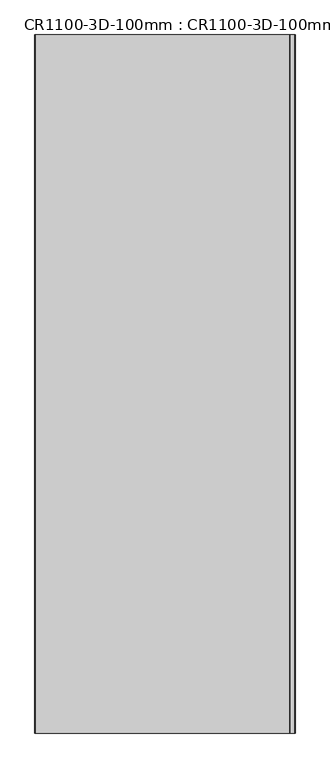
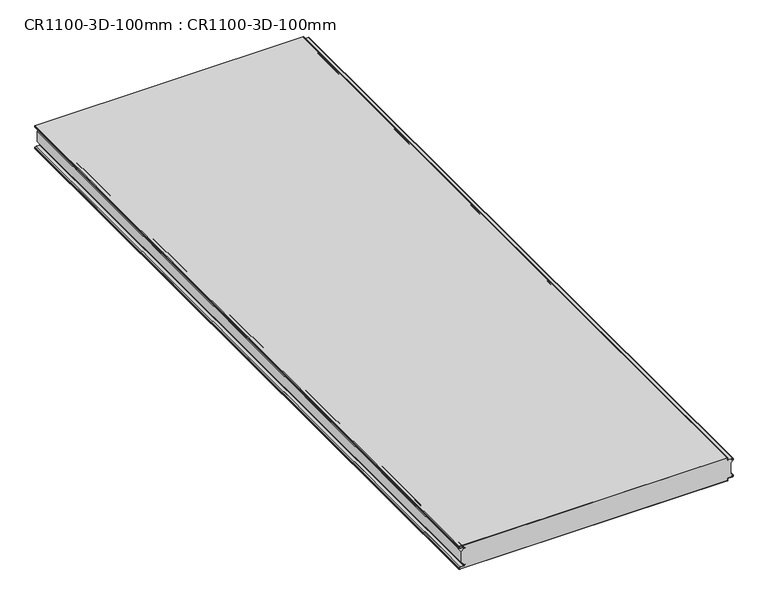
"""IFC4 building model written with IfcOpenShell, lengths in millimetres: proxy geometry, CR1100-3D-100mm : CR1100-3D-100mm."""

from ifc_helpers import new_model, si_unit, point, frame, frame_2d, origin, place, context, project, spatial, polyline, circle_curve, trimmed, segment, composite_curve, outline, extrude, source, transform, mapped, element, save
from ifc_brep_helpers import plane_surface, cylinder_surface, revolved_surface, advanced_brep


def cr1100_3d_100mm_cr1100_3d_100mm_3775a894(model_context):
    return source(origin(), model_context, "Body", "SolidModel", [
        advanced_brep(
        [(1096.2027435, -3000.0, 98.9992305), (1.7649196, -3000.0, 98.9992305), (1.0, -3000.0, 98.2), (1.0, -3000.0, 94.04), (1.4, -3000.0, 93.3471797), (5.4641016, -3000.0, 91.0007695), (18.8, -3000.0, 91.0007695), (20.9972562, -3000.0, 88.9106119), (20.9972562, -3000.0, 86.8007695), (21.8, -3000.0, 86.0007695), (26.0, -3000.0, 86.0007695), (26.0, -3000.0, 85.0007695), (21.8, -3000.0, 85.0007695), (20.0, -3000.0, 86.8007695), (19.9972562, -3000.0, 82.5950665), (9.9962253, -3000.0, 72.6762843), (9.9962253, -3000.0, 27.6050984), (20.0, -3000.0, 17.5985798), (20.0, -3000.0, 13.1992305), (21.8, -3000.0, 14.9992305), (26.0, -3000.0, 14.9992305), (26.0, -3000.0, 13.9992305), (21.8, -3000.0, 13.9992305), (21.0, -3000.0, 13.1992305), (21.0, -3000.0, 12.2992305), (21.0, -3000.0, 11.1992305), (18.8, -3000.0, 8.9992305), (5.4641016, -3000.0, 8.9992305), (1.4, -3000.0, 6.6528203), (1.0, -3000.0, 5.96), (1.0, -3000.0, 1.8), (1.8, -3000.0, 1.0), (1096.2027435, -3000.0, 0.9992305), (1097.0027435, -3000.0, 1.7992305), (1097.0027435, -3000.0, 9.2992305), (1099.2027435, -3000.0, 11.4992305), (1118.2027435, -3000.0, 11.4992305), (1119.0027435, -3000.0, 12.2992305), (1119.0027435, -3000.0, 13.1992305), (1118.2027435, -3000.0, 13.9992305), (1114.0027435, -3000.0, 13.9992305), (1114.0027435, -3000.0, 14.9992305), (1118.2027435, -3000.0, 14.9992305), (1120.0027435, -3000.0, 13.1992305), (1120.0027435, -3000.0, 17.5985798), (1109.9989687, -3000.0, 27.6050984), (1109.9989687, -3000.0, 72.6762843), (1119.9999996, -3000.0, 82.5950665), (1119.9999996, -3000.0, 86.6998704), (1118.202743, -3000.0, 84.9992305), (1114.0027435, -3000.0, 84.9992305), (1114.0027435, -3000.0, 85.9992305), (1118.202743, -3000.0, 85.9992305), (1119.0027435, -3000.0, 86.8002569), (1119.0027435, -3000.0, 87.6992305), (1118.2027435, -3000.0, 88.4992305), (1099.2027435, -3000.0, 88.4992305), (1097.0027435, -3000.0, 90.6992305), (1097.0027435, -3000.0, 98.1992305), (1096.2027435, 0.0, 98.9992305), (1097.0027435, 0.0, 98.1992305), (1097.0027435, 0.0, 90.6992305), (1099.2027435, 0.0, 88.4992305), (1118.2027435, 0.0, 88.4992305), (1119.0027435, 0.0, 87.6992305), (1119.0027435, 0.0, 86.8002569), (1118.202743, 0.0, 85.9992305), (1114.0027435, 0.0, 85.9992305), (1114.0027435, 0.0, 84.9992305), (1118.202743, 0.0, 84.9992305), (1119.9999996, 0.0, 86.6998704), (1119.9999996, 0.0, 82.5950665), (1109.9989687, 0.0, 72.6762843), (1109.9989687, 0.0, 27.6050984), (1120.0027435, 0.0, 17.5985798), (1120.0027435, 0.0, 13.1992305), (1118.2027435, 0.0, 14.9992305), (1114.0027435, 0.0, 14.9992305), (1114.0027435, 0.0, 13.9992305), (1118.2027435, 0.0, 13.9992305), (1119.0027435, 0.0, 13.1992305), (1119.0027435, 0.0, 12.2992305), (1118.2027435, 0.0, 11.4992305), (1099.2027435, 0.0, 11.4992305), (1097.0027435, 0.0, 9.2992305), (1097.0027435, 0.0, 1.7992305), (1096.2027435, 0.0, 0.9992305), (1.8, 0.0, 0.9992305), (1.0, 0.0, 1.8), (1.0, 0.0, 5.96), (1.4, 0.0, 6.6528203), (5.4641016, 0.0, 8.9992305), (18.8, 0.0, 8.9992305), (21.0, 0.0, 11.1992305), (21.0, 0.0, 12.2992305), (21.0, 0.0, 13.1992305), (21.8, 0.0, 13.9992305), (26.0, 0.0, 13.9992305), (26.0, 0.0, 14.9992305), (21.8, 0.0, 14.9992305), (20.0, 0.0, 13.1992305), (20.0, 0.0, 17.5985798), (9.9962253, 0.0, 27.6050984), (9.9962253, 0.0, 72.6762843), (19.9972562, 0.0, 82.5950665), (19.9972562, 0.0, 86.8007695), (21.8, 0.0, 85.0007695), (26.0, 0.0, 85.0007695), (26.0, 0.0, 86.0007695), (21.8, 0.0, 86.0007695), (21.0, 0.0, 86.8007695), (20.9972562, 0.0, 88.9106119), (18.8, 0.0, 91.0007695), (5.4641016, 0.0, 91.0007695), (1.4, 0.0, 93.3471797), (1.0, 0.0, 94.04), (1.0, 0.0, 98.2), (1.7649196, 0.0, 98.9992305)],
        [
            (0, 1),
            (1, 2, circle_curve(frame((1.8, -3000.0, 98.2), z_axis=(0.0, -1.0, 0.0), x_axis=(1.0, 0.0, 0.0)), 0.8)),
            (2, 3),
            (3, 4, circle_curve(frame((1.8, -3000.0, 94.04), z_axis=(0.0, -1.0, 0.0), x_axis=(1.0, 0.0, 0.0)), 0.8)),
            (4, 5),
            (5, 6),
            (6, 7, circle_curve(frame((18.8, -3000.0, 88.8007695), z_axis=(0.0, 1.0, 0.0), x_axis=(1.0, 0.0, 0.0)), 2.2)),
            (7, 8),
            (8, 9, circle_curve(frame((21.8, -3000.0, 86.8007695), z_axis=(0.0, -1.0, 0.0), x_axis=(1.0, 0.0, 0.0)), 0.8)),
            (9, 10),
            (10, 11),
            (11, 12),
            (12, 13, circle_curve(frame((21.8, -3000.0, 86.8007695), z_axis=(0.0, 1.0, 0.0), x_axis=(1.0, 0.0, 0.0)), 1.8)),
            (13, 14),
            (14, 15),
            (15, 16),
            (16, 17),
            (17, 18),
            (18, 19, circle_curve(frame((21.8, -3000.0, 13.1992305), z_axis=(0.0, 1.0, 0.0), x_axis=(1.0, 0.0, 0.0)), 1.8)),
            (19, 20),
            (20, 21),
            (21, 22),
            (22, 23, circle_curve(frame((21.8, -3000.0, 13.1992305), z_axis=(0.0, -1.0, 0.0), x_axis=(1.0, 0.0, 0.0)), 0.8)),
            (23, 24),
            (24, 25),
            (25, 26, circle_curve(frame((18.8, -3000.0, 11.1992305), z_axis=(0.0, 1.0, 0.0), x_axis=(1.0, 0.0, 0.0)), 2.2)),
            (26, 27),
            (27, 28),
            (28, 29, circle_curve(frame((1.8, -3000.0, 5.96), z_axis=(0.0, -1.0, 0.0), x_axis=(1.0, 0.0, 0.0)), 0.8)),
            (29, 30),
            (30, 31, circle_curve(frame((1.8, -3000.0, 1.8), z_axis=(0.0, -1.0, 0.0), x_axis=(1.0, 0.0, 0.0)), 0.8)),
            (31, 32),
            (32, 33, circle_curve(frame((1096.2027435, -3000.0, 1.7992305), z_axis=(0.0, -1.0, 0.0), x_axis=(1.0, 0.0, -1.015187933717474e-12)), 0.8)),
            (33, 34),
            (34, 35, circle_curve(frame((1099.2027435, -3000.0, 9.2992305), z_axis=(0.0, 1.0, 0.0), x_axis=(1.0, 0.0, 0.0)), 2.2)),
            (35, 36),
            (36, 37, circle_curve(frame((1118.2027435, -3000.0, 12.2992305), z_axis=(0.0, -1.0, 0.0), x_axis=(1.0, 0.0, 0.0)), 0.8)),
            (37, 38),
            (38, 39, circle_curve(frame((1118.2027435, -3000.0, 13.1992305), z_axis=(0.0, -1.0, 0.0), x_axis=(1.0, 0.0, 0.0)), 0.8)),
            (39, 40),
            (40, 41),
            (41, 42),
            (42, 43, circle_curve(frame((1118.2027435, -3000.0, 13.1992305), z_axis=(0.0, 1.0, 0.0), x_axis=(1.0, 0.0, 0.0)), 1.8)),
            (43, 44),
            (44, 45),
            (45, 46),
            (46, 47),
            (47, 48),
            (48, 49, circle_curve(frame((1118.202743, -3000.0, 86.7992316), z_axis=(0.0, 1.0, 0.0), x_axis=(1.0, 0.0, 0.0)), 1.8000011)),
            (49, 50),
            (50, 51),
            (51, 52),
            (52, 53, circle_curve(frame((1118.202743, -3000.0, 86.7992316), z_axis=(0.0, -1.0, 0.0), x_axis=(1.0, 0.0, 0.0)), 0.8000011)),
            (53, 54),
            (54, 55, circle_curve(frame((1118.2027435, -3000.0, 87.6992305), z_axis=(0.0, -1.0, 0.0), x_axis=(1.0, 0.0, 0.0)), 0.8)),
            (55, 56),
            (56, 57, circle_curve(frame((1099.2027435, -3000.0, 90.6992305), z_axis=(0.0, 1.0, 0.0), x_axis=(1.0, 0.0, 0.0)), 2.2)),
            (57, 58),
            (58, 0, circle_curve(frame((1096.2027435, -3000.0, 98.1992305), z_axis=(0.0, -1.0, 0.0), x_axis=(1.0, 0.0, 0.0)), 0.8)),
            (59, 60, circle_curve(frame((1096.2027435, 0.0, 98.1992305), z_axis=(0.0, 1.0, 0.0), x_axis=(1.0, 0.0, 0.0)), 0.8)),
            (60, 61),
            (61, 62, circle_curve(frame((1099.2027435, 0.0, 90.6992305), z_axis=(0.0, -1.0, 0.0), x_axis=(1.0, 0.0, 0.0)), 2.2)),
            (62, 63),
            (63, 64, circle_curve(frame((1118.2027435, 0.0, 87.6992305), z_axis=(0.0, 1.0, 0.0), x_axis=(1.0, 0.0, 0.0)), 0.8)),
            (64, 65),
            (65, 66, circle_curve(frame((1118.202743, 0.0, 86.7992316), z_axis=(0.0, 1.0, 0.0), x_axis=(1.0, 0.0, 0.0)), 0.8000011)),
            (66, 67),
            (67, 68),
            (68, 69),
            (69, 70, circle_curve(frame((1118.202743, 0.0, 86.7992316), z_axis=(0.0, -1.0, 0.0), x_axis=(1.0, 0.0, 0.0)), 1.8000011)),
            (70, 71),
            (71, 72),
            (72, 73),
            (73, 74),
            (74, 75),
            (75, 76, circle_curve(frame((1118.2027435, 0.0, 13.1992305), z_axis=(0.0, -1.0, 0.0), x_axis=(1.0, 0.0, 0.0)), 1.8)),
            (76, 77),
            (77, 78),
            (78, 79),
            (79, 80, circle_curve(frame((1118.2027435, 0.0, 13.1992305), z_axis=(0.0, 1.0, 0.0), x_axis=(1.0, 0.0, 0.0)), 0.8)),
            (80, 81),
            (81, 82, circle_curve(frame((1118.2027435, 0.0, 12.2992305), z_axis=(0.0, 1.0, 0.0), x_axis=(1.0, 0.0, 0.0)), 0.8)),
            (82, 83),
            (83, 84, circle_curve(frame((1099.2027435, 0.0, 9.2992305), z_axis=(0.0, -1.0, 0.0), x_axis=(1.0, 0.0, 0.0)), 2.2)),
            (84, 85),
            (85, 86, circle_curve(frame((1096.2027435, 0.0, 1.7992305), z_axis=(0.0, 1.0, 0.0), x_axis=(1.0, 0.0, -1.015187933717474e-12)), 0.8)),
            (86, 87),
            (87, 88, circle_curve(frame((1.8, 0.0, 1.8), z_axis=(0.0, 1.0, 0.0), x_axis=(1.0, 0.0, 0.0)), 0.8)),
            (88, 89),
            (89, 90, circle_curve(frame((1.8, 0.0, 5.96), z_axis=(0.0, 1.0, 0.0), x_axis=(1.0, 0.0, 0.0)), 0.8)),
            (90, 91),
            (91, 92),
            (92, 93, circle_curve(frame((18.8, 0.0, 11.1992305), z_axis=(0.0, -1.0, 0.0), x_axis=(1.0, 0.0, 0.0)), 2.2)),
            (93, 94),
            (94, 95),
            (95, 96, circle_curve(frame((21.8, 0.0, 13.1992305), z_axis=(0.0, 1.0, 0.0), x_axis=(1.0, 0.0, 0.0)), 0.8)),
            (96, 97),
            (97, 98),
            (98, 99),
            (99, 100, circle_curve(frame((21.8, 0.0, 13.1992305), z_axis=(0.0, -1.0, 0.0), x_axis=(1.0, 0.0, 0.0)), 1.8)),
            (100, 101),
            (101, 102),
            (102, 103),
            (103, 104),
            (104, 105),
            (105, 106, circle_curve(frame((21.8, 0.0, 86.8007695), z_axis=(0.0, -1.0, 0.0), x_axis=(1.0, 0.0, 0.0)), 1.8)),
            (106, 107),
            (107, 108),
            (108, 109),
            (109, 110, circle_curve(frame((21.8, 0.0, 86.8007695), z_axis=(0.0, 1.0, 0.0), x_axis=(1.0, 0.0, 0.0)), 0.8)),
            (110, 111),
            (111, 112, circle_curve(frame((18.8, 0.0, 88.8007695), z_axis=(0.0, -1.0, 0.0), x_axis=(1.0, 0.0, 0.0)), 2.2)),
            (112, 113),
            (113, 114),
            (114, 115, circle_curve(frame((1.8, 0.0, 94.04), z_axis=(0.0, 1.0, 0.0), x_axis=(1.0, 0.0, 0.0)), 0.8)),
            (115, 116),
            (116, 117, circle_curve(frame((1.8, 0.0, 98.2), z_axis=(0.0, 1.0, 0.0), x_axis=(1.0, 0.0, 0.0)), 0.8)),
            (117, 59),
            (0, 59),
            (117, 1),
            (116, 2),
            (115, 3),
            (114, 4),
            (113, 5),
            (112, 6),
            (111, 7),
            (110, 8),
            (109, 9),
            (108, 10),
            (107, 11),
            (106, 12),
            (105, 13),
            (104, 14),
            (103, 15),
            (102, 16),
            (101, 17),
            (100, 18),
            (99, 19),
            (98, 20),
            (97, 21),
            (96, 22),
            (95, 23),
            (94, 24),
            (93, 25),
            (92, 26),
            (91, 27),
            (90, 28),
            (89, 29),
            (88, 30),
            (87, 31),
            (86, 32),
            (85, 33),
            (84, 34),
            (83, 35),
            (82, 36),
            (81, 37),
            (80, 38),
            (79, 39),
            (78, 40),
            (77, 41),
            (76, 42),
            (75, 43),
            (74, 44),
            (73, 45),
            (72, 46),
            (71, 47),
            (70, 48),
            (69, 49),
            (68, 50),
            (67, 51),
            (66, 52),
            (65, 53),
            (64, 54),
            (63, 55),
            (62, 56),
            (61, 57),
            (60, 58),
        ],
        [
            plane_surface(frame((1054.6558136, -3000.0, 98.9992305), z_axis=(0.0, -1.0, 0.0), x_axis=(-1.0, 0.0, 0.0))),
            plane_surface(frame((1054.6558136, 0.0, 98.9992305), z_axis=(0.0, 1.0, 0.0), x_axis=(1.0, 0.0, 0.0))),
            plane_surface(frame((1096.2027435, -3000.0, 98.9992305), z_axis=(0.0, 0.0, 1.0), x_axis=(0.0, 1.0, 0.0))),
            cylinder_surface(frame((1.8, 0.0, 98.2), z_axis=(0.0, -1.0, 0.0), x_axis=(1.0, 0.0, 0.0)), 0.8),
            plane_surface(frame((1.0, -3000.0, 98.2), z_axis=(-1.0, 0.0, 0.0), x_axis=(0.0, 1.0, 0.0))),
            cylinder_surface(frame((1.8, 0.0, 94.04), z_axis=(0.0, -1.0, 0.0), x_axis=(1.0, 0.0, 0.0)), 0.8),
            plane_surface(frame((1.4, -3000.0, 93.3471797), z_axis=(-0.5000000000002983, 0.0, -0.8660254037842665), x_axis=(0.0, 1.0, 0.0))),
            plane_surface(frame((5.4641016, -3000.0, 91.0007695), z_axis=(0.0, 0.0, -1.0), x_axis=(0.0, 1.0, 0.0))),
            revolved_surface(polyline([(21.0, 0.0, 88.8007695), (21.0, -3000.0, 88.8007695)]), (18.8, 0.0, 88.8007695), (0.0, 1.0, 0.0)),
            plane_surface(frame((20.9972562, -3000.0, 88.9106119), z_axis=(-1.0, 0.0, 0.0), x_axis=(0.0, 1.0, 0.0))),
            cylinder_surface(frame((21.8, 0.0, 86.8007695), z_axis=(0.0, -1.0, 0.0), x_axis=(1.0, 0.0, 0.0)), 0.8),
            plane_surface(frame((21.8, -3000.0, 86.0007695), z_axis=(0.0, 0.0, -1.0), x_axis=(0.0, 1.0, 0.0))),
            plane_surface(frame((26.0, -3000.0, 86.0007695), z_axis=(-1.0, 0.0, 0.0), x_axis=(0.0, 1.0, 0.0))),
            plane_surface(frame((26.0, -3000.0, 85.0007695), z_axis=(0.0, 0.0, 1.0), x_axis=(0.0, 1.0, 0.0))),
            revolved_surface(polyline([(23.6, 0.0, 86.8007695), (23.6, -3000.0, 86.8007695)]), (21.8, 0.0, 86.8007695), (0.0, 1.0, 0.0)),
            plane_surface(frame((19.9972562, -3000.0, 86.8007695), z_axis=(-1.0, 0.0, 0.0), x_axis=(0.0, 1.0, 0.0))),
            plane_surface(frame((19.9972562, -3000.0, 82.5950665), z_axis=(-0.7041811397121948, 0.0, 0.7100203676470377), x_axis=(0.0, 1.0, 0.0))),
            plane_surface(frame((9.9962253, -3000.0, 72.6762843), z_axis=(-1.0, 0.0, 0.0), x_axis=(0.0, 1.0, 0.0))),
            plane_surface(frame((9.9962253, -3000.0, 27.6050984), z_axis=(-0.7072037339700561, 0.0, -0.7070098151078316), x_axis=(0.0, 1.0, 0.0))),
            plane_surface(frame((20.0, -3000.0, 17.5985798), z_axis=(-1.0, 0.0, 0.0), x_axis=(0.0, 1.0, 0.0))),
            revolved_surface(polyline([(23.6, 0.0, 13.1992305), (23.6, -3000.0, 13.1992305)]), (21.8, 0.0, 13.1992305), (0.0, 1.0, 0.0)),
            plane_surface(frame((21.8, -3000.0, 14.9992305), z_axis=(0.0, 0.0, -1.0), x_axis=(0.0, 1.0, 0.0))),
            plane_surface(frame((26.0, -3000.0, 14.9992305), z_axis=(-1.0, 0.0, 0.0), x_axis=(0.0, 1.0, 0.0))),
            plane_surface(frame((26.0, -3000.0, 13.9992305), z_axis=(0.0, 0.0, 1.0), x_axis=(0.0, 1.0, 0.0))),
            cylinder_surface(frame((21.8, 0.0, 13.1992305), z_axis=(0.0, -1.0, 0.0), x_axis=(1.0, 0.0, 0.0)), 0.8),
            plane_surface(frame((21.0, -3000.0, 13.1992305), z_axis=(-1.0, 0.0, 0.0), x_axis=(0.0, 1.0, 0.0))),
            plane_surface(frame((21.0, -3000.0, 12.2992305), z_axis=(-1.0, 0.0, 0.0), x_axis=(0.0, 1.0, 0.0))),
            revolved_surface(polyline([(21.0, 0.0, 11.1992305), (21.0, -3000.0, 11.1992305)]), (18.8, 0.0, 11.1992305), (0.0, 1.0, 0.0)),
            plane_surface(frame((18.8, -3000.0, 8.9992305), z_axis=(0.0, 0.0, 1.0), x_axis=(0.0, 1.0, 0.0))),
            plane_surface(frame((5.4641016, -3000.0, 8.9992305), z_axis=(-0.5000000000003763, 0.0, 0.8660254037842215), x_axis=(0.0, 1.0, 0.0))),
            cylinder_surface(frame((1.8, 0.0, 5.96), z_axis=(0.0, -1.0, 0.0), x_axis=(1.0, 0.0, 0.0)), 0.8),
            plane_surface(frame((1.0, -3000.0, 5.96), z_axis=(-1.0, 0.0, 0.0), x_axis=(0.0, 1.0, 0.0))),
            cylinder_surface(frame((1.8, 0.0, 1.8), z_axis=(0.0, -1.0, 0.0), x_axis=(1.0, 0.0, 0.0)), 0.8),
            plane_surface(frame((1.8, -3000.0, 0.9992305), z_axis=(0.0, 0.0, -1.0), x_axis=(0.0, 1.0, 0.0))),
            cylinder_surface(frame((1096.2027435, 0.0, 1.7992305), z_axis=(0.0, -1.0, 0.0), x_axis=(1.0, 0.0, -1.015187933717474e-12)), 0.8),
            plane_surface(frame((1097.0027435, -3000.0, 1.7992305), z_axis=(1.0, 0.0, 0.0), x_axis=(0.0, 1.0, 0.0))),
            revolved_surface(polyline([(1101.4027435, 0.0, 9.2992305), (1101.4027435, -3000.0, 9.2992305)]), (1099.2027435, 0.0, 9.2992305), (0.0, 1.0, 0.0)),
            plane_surface(frame((1099.2027435, -3000.0, 11.4992305), z_axis=(0.0, 0.0, -1.0), x_axis=(0.0, 1.0, 0.0))),
            cylinder_surface(frame((1118.2027435, 0.0, 12.2992305), z_axis=(0.0, -1.0, 0.0), x_axis=(1.0, 0.0, 0.0)), 0.8),
            plane_surface(frame((1119.0027435, -3000.0, 12.2992305), z_axis=(1.0, 0.0, 1.804778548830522e-12), x_axis=(0.0, 1.0, 0.0))),
            cylinder_surface(frame((1118.2027435, 0.0, 13.1992305), z_axis=(0.0, -1.0, 0.0), x_axis=(1.0, 0.0, 0.0)), 0.8),
            plane_surface(frame((1118.2027435, -3000.0, 13.9992305), z_axis=(0.0, 0.0, 1.0), x_axis=(0.0, 1.0, 0.0))),
            plane_surface(frame((1114.0027435, -3000.0, 13.9992305), z_axis=(1.0, 0.0, 0.0), x_axis=(0.0, 1.0, 0.0))),
            plane_surface(frame((1114.0027435, -3000.0, 14.9992305), z_axis=(0.0, 0.0, -1.0), x_axis=(0.0, 1.0, 0.0))),
            revolved_surface(polyline([(1120.0027435, 0.0, 13.1992305), (1120.0027435, -3000.0, 13.1992305)]), (1118.2027435, 0.0, 13.1992305), (0.0, 1.0, 0.0)),
            plane_surface(frame((1120.0027435, -3000.0, 13.1992305), z_axis=(1.0, 0.0, 0.0), x_axis=(0.0, 1.0, 0.0))),
            plane_surface(frame((1120.0027435, -3000.0, 17.5985798), z_axis=(0.7072037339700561, 0.0, 0.7070098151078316), x_axis=(0.0, 1.0, 0.0))),
            plane_surface(frame((1109.9989687, -3000.0, 27.6050984), z_axis=(1.0, 0.0, 0.0), x_axis=(0.0, 1.0, 0.0))),
            plane_surface(frame((1109.9989687, -3000.0, 72.6762843), z_axis=(0.7041811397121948, 0.0, -0.7100203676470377), x_axis=(0.0, 1.0, 0.0))),
            plane_surface(frame((1119.9999996, -3000.0, 82.5950665), z_axis=(1.0, 0.0, 0.0), x_axis=(0.0, 1.0, 0.0))),
            revolved_surface(polyline([(1120.0027441, 0.0, 86.7992316), (1120.0027441, -3000.0, 86.7992316)]), (1118.202743, 0.0, 86.7992316), (0.0, 1.0, 0.0)),
            plane_surface(frame((1118.202743, -3000.0, 84.9992305), z_axis=(0.0, 0.0, 1.0), x_axis=(0.0, 1.0, 0.0))),
            plane_surface(frame((1114.0027435, -3000.0, 84.9992305), z_axis=(1.0, 0.0, 0.0), x_axis=(0.0, 1.0, 0.0))),
            plane_surface(frame((1114.0027435, -3000.0, 85.9992305), z_axis=(0.0, 0.0, -1.0), x_axis=(0.0, 1.0, 0.0))),
            cylinder_surface(frame((1118.202743, 0.0, 86.7992316), z_axis=(0.0, -1.0, 0.0), x_axis=(1.0, 0.0, 0.0)), 0.8000011),
            plane_surface(frame((1119.0027435, -3000.0, 86.8002569), z_axis=(1.0, 0.0, 0.0), x_axis=(0.0, 1.0, 0.0))),
            cylinder_surface(frame((1118.2027435, 0.0, 87.6992305), z_axis=(0.0, -1.0, 0.0), x_axis=(1.0, 0.0, 0.0)), 0.8),
            plane_surface(frame((1118.2027435, -3000.0, 88.4992305), z_axis=(0.0, 0.0, 1.0), x_axis=(0.0, 1.0, 0.0))),
            revolved_surface(polyline([(1101.4027435, 0.0, 90.6992305), (1101.4027435, -3000.0, 90.6992305)]), (1099.2027435, 0.0, 90.6992305), (0.0, 1.0, 0.0)),
            plane_surface(frame((1097.0027435, -3000.0, 90.6992305), z_axis=(1.0, 0.0, 0.0), x_axis=(0.0, 1.0, 0.0))),
            cylinder_surface(frame((1096.2027435, 0.0, 98.1992305), z_axis=(0.0, -1.0, 0.0), x_axis=(1.0, 0.0, 0.0)), 0.8),
        ],
        [
            (0, [[1, 2, 3, 4, 5, 6, 7, 8, 9, 10, 11, 12, 13, 14, 15, 16, 17, 18, 19, 20, 21, 22, 23, 24, 25, 26, 27, 28, 29, 30, 31, 32, 33, 34, 35, 36, 37, 38, 39, 40, 41, 42, 43, 44, 45, 46, 47, 48, 49, 50, 51, 52, 53, 54, 55, 56, 57, 58, 59]]),
            (1, [[60, 61, 62, 63, 64, 65, 66, 67, 68, 69, 70, 71, 72, 73, 74, 75, 76, 77, 78, 79, 80, 81, 82, 83, 84, 85, 86, 87, 88, 89, 90, 91, 92, 93, 94, 95, 96, 97, 98, 99, 100, 101, 102, 103, 104, 105, 106, 107, 108, 109, 110, 111, 112, 113, 114, 115, 116, 117, 118]]),
            (2, [[-1, 119, -118, 120]]),
            (3, [[-2, -120, -117, 121]]),
            (4, [[-3, -121, -116, 122]]),
            (5, [[-4, -122, -115, 123]]),
            (6, [[-5, -123, -114, 124]]),
            (7, [[-6, -124, -113, 125]]),
            (8, [[-7, -125, -112, 126]]),
            (9, [[-8, -126, -111, 127]]),
            (10, [[-9, -127, -110, 128]]),
            (11, [[-10, -128, -109, 129]]),
            (12, [[-11, -129, -108, 130]]),
            (13, [[-12, -130, -107, 131]]),
            (14, [[-13, -131, -106, 132]]),
            (15, [[-14, -132, -105, 133]]),
            (16, [[-15, -133, -104, 134]]),
            (17, [[-16, -134, -103, 135]]),
            (18, [[-17, -135, -102, 136]]),
            (19, [[-18, -136, -101, 137]]),
            (20, [[-19, -137, -100, 138]]),
            (21, [[-20, -138, -99, 139]]),
            (22, [[-21, -139, -98, 140]]),
            (23, [[-22, -140, -97, 141]]),
            (24, [[-23, -141, -96, 142]]),
            (25, [[-24, -142, -95, 143]]),
            (26, [[-25, -143, -94, 144]]),
            (27, [[-26, -144, -93, 145]]),
            (28, [[-27, -145, -92, 146]]),
            (29, [[-28, -146, -91, 147]]),
            (30, [[-29, -147, -90, 148]]),
            (31, [[-30, -148, -89, 149]]),
            (32, [[-31, -149, -88, 150]]),
            (33, [[-32, -150, -87, 151]]),
            (34, [[-33, -151, -86, 152]]),
            (35, [[-34, -152, -85, 153]]),
            (36, [[-35, -153, -84, 154]]),
            (37, [[-36, -154, -83, 155]]),
            (38, [[-37, -155, -82, 156]]),
            (39, [[-38, -156, -81, 157]]),
            (40, [[-39, -157, -80, 158]]),
            (41, [[-40, -158, -79, 159]]),
            (42, [[-41, -159, -78, 160]]),
            (43, [[-42, -160, -77, 161]]),
            (44, [[-43, -161, -76, 162]]),
            (45, [[-44, -162, -75, 163]]),
            (46, [[-45, -163, -74, 164]]),
            (47, [[-46, -164, -73, 165]]),
            (48, [[-47, -165, -72, 166]]),
            (49, [[-48, -166, -71, 167]]),
            (50, [[-49, -167, -70, 168]]),
            (51, [[-50, -168, -69, 169]]),
            (52, [[-51, -169, -68, 170]]),
            (53, [[-52, -170, -67, 171]]),
            (54, [[-53, -171, -66, 172]]),
            (55, [[-54, -172, -65, 173]]),
            (56, [[-55, -173, -64, 174]]),
            (57, [[-56, -174, -63, 175]]),
            (58, [[-57, -175, -62, 176]]),
            (59, [[-58, -176, -61, 177]]),
            (60, [[-59, -177, -60, -119]]),
        ],
    ),
        extrude(outline(composite_curve([segment(polyline([(100.0, 1096.2027438), (100.0, 1.8)]), True, "CONTINUOUS"), segment(trimmed(circle_curve(frame_2d((98.2, 1.8)), 1.8), [point((100.0, 1.8))], [point((98.2, 0.0))], False, "CARTESIAN"), True, "CONTINUOUS"), segment(polyline([(98.2, 0.0), (94.04, 0.0)]), True, "CONTINUOUS"), segment(trimmed(circle_curve(frame_2d((94.04, 1.8)), 1.8), [point((94.04, 0.0))], [point((92.4811543, 0.9))], False, "CARTESIAN"), True, "CONTINUOUS"), segment(polyline([(92.4811543, 0.9), (90.2419238, 4.778461)]), True, "CONTINUOUS"), segment(trimmed(circle_curve(frame_2d((91.8007695, 5.678461)), 1.8), [point((90.2419238, 4.778461))], [point((90.0007695, 5.678461))], False, "CARTESIAN"), True, "CONTINUOUS"), segment(polyline([(90.0007695, 5.678461), (90.0007695, 18.8)]), True, "CONTINUOUS"), segment(trimmed(circle_curve(frame_2d((88.8007695, 18.8)), 1.2), [point((90.0007695, 18.8))], [point((88.8007695, 20.0))], True, "CARTESIAN"), True, "CONTINUOUS"), segment(polyline([(88.8007695, 20.0), (86.8007695, 20.0)]), True, "CONTINUOUS"), segment(trimmed(circle_curve(frame_2d((86.8007695, 21.8)), 1.8), [point((86.8007695, 20.0))], [point((85.0007695, 21.8))], False, "CARTESIAN"), True, "CONTINUOUS"), segment(polyline([(85.0007695, 21.8), (85.0007695, 26.0), (86.0007695, 26.0), (86.0007695, 21.8)]), True, "CONTINUOUS"), segment(trimmed(circle_curve(frame_2d((86.8007695, 21.8)), 0.8), [point((86.0007695, 21.8))], [point((86.8007695, 21.0))], True, "CARTESIAN"), True, "CONTINUOUS"), segment(polyline([(86.8007695, 21.0), (88.8007695, 21.0)]), True, "CONTINUOUS"), segment(trimmed(circle_curve(frame_2d((88.8007695, 18.8)), 2.2), [point((88.8007695, 21.0))], [point((91.0007695, 18.8))], False, "CARTESIAN"), True, "CONTINUOUS"), segment(polyline([(91.0007695, 18.8), (91.0007695, 5.4641016), (93.3471797, 1.4)]), True, "CONTINUOUS"), segment(trimmed(circle_curve(frame_2d((94.04, 1.8)), 0.8), [point((93.3471797, 1.4))], [point((94.04, 1.0))], True, "CARTESIAN"), True, "CONTINUOUS"), segment(polyline([(94.04, 1.0), (98.2, 1.0)]), True, "CONTINUOUS"), segment(trimmed(circle_curve(frame_2d((98.2, 1.8)), 0.8), [point((98.2, 1.0))], [point((99.0, 1.8))], True, "CARTESIAN"), True, "CONTINUOUS"), segment(polyline([(99.0, 1.8), (99.0, 1096.2027438)]), True, "CONTINUOUS"), segment(trimmed(circle_curve(frame_2d((98.2, 1096.2027438)), 0.8), [point((99.0, 1096.2027438))], [point((98.2, 1097.0027438))], True, "CARTESIAN"), True, "CONTINUOUS"), segment(polyline([(98.2, 1097.0027438), (90.7, 1097.0027438)]), True, "CONTINUOUS"), segment(trimmed(circle_curve(frame_2d((90.7, 1099.2027438)), 2.2), [point((90.7, 1097.0027438))], [point((88.5, 1099.2027438))], False, "CARTESIAN"), True, "CONTINUOUS"), segment(polyline([(88.5, 1099.2027438), (88.5, 1118.2027438)]), True, "CONTINUOUS"), segment(trimmed(circle_curve(frame_2d((87.7, 1118.2027438)), 0.8), [point((88.5, 1118.2027438))], [point((87.7, 1119.0027438))], True, "CARTESIAN"), True, "CONTINUOUS"), segment(polyline([(87.7, 1119.0027438), (86.8, 1119.0027438)]), True, "CONTINUOUS"), segment(trimmed(circle_curve(frame_2d((86.8, 1118.2027438)), 0.8), [point((86.8, 1119.0027438))], [point((86.0, 1118.2027438))], True, "CARTESIAN"), True, "CONTINUOUS"), segment(polyline([(86.0, 1118.2027438), (86.0, 1114.0027438), (85.0, 1114.0027438), (85.0, 1118.2027438)]), True, "CONTINUOUS"), segment(trimmed(circle_curve(frame_2d((86.8, 1118.2027438)), 1.8), [point((85.0, 1118.2027438))], [point((86.8, 1120.0027438))], False, "CARTESIAN"), True, "CONTINUOUS"), segment(polyline([(86.8, 1120.0027438), (87.7, 1120.0027438)]), True, "CONTINUOUS"), segment(trimmed(circle_curve(frame_2d((87.7, 1118.2027438)), 1.8), [point((87.7, 1120.0027438))], [point((89.5, 1118.2027438))], False, "CARTESIAN"), True, "CONTINUOUS"), segment(polyline([(89.5, 1118.2027438), (89.5, 1099.2027438)]), True, "CONTINUOUS"), segment(trimmed(circle_curve(frame_2d((90.7, 1099.2027438)), 1.2), [point((89.5, 1099.2027438))], [point((90.7, 1098.0027438))], True, "CARTESIAN"), True, "CONTINUOUS"), segment(polyline([(90.7, 1098.0027438), (98.2, 1098.0027438)]), True, "CONTINUOUS"), segment(trimmed(circle_curve(frame_2d((98.2, 1096.2027438)), 1.8), [point((98.2, 1098.0027438))], [point((100.0, 1096.2027438))], False, "CARTESIAN"), True, "CONTINUOUS")], self_intersect=False)), frame((0.0, -3000.0, 0.0), z_axis=(0.0, 1.0, 0.0), x_axis=(0.0, 0.0, 1.0)), (0.0, 0.0, 1.0), 3000.0),
        extrude(outline(composite_curve([segment(polyline([(14.9992305, 26.0), (14.9992305, 21.8)]), True, "CONTINUOUS"), segment(trimmed(circle_curve(frame_2d((13.1992305, 21.8)), 1.8), [point((14.9992305, 21.8))], [point((13.1992305, 20.0))], False, "CARTESIAN"), True, "CONTINUOUS"), segment(polyline([(13.1992305, 20.0), (11.1992305, 20.0)]), True, "CONTINUOUS"), segment(trimmed(circle_curve(frame_2d((11.1992305, 18.8)), 1.2), [point((11.1992305, 20.0))], [point((9.9992305, 18.8))], True, "CARTESIAN"), True, "CONTINUOUS"), segment(polyline([(9.9992305, 18.8), (9.9992305, 5.678461)]), True, "CONTINUOUS"), segment(trimmed(circle_curve(frame_2d((8.1992305, 5.678461)), 1.8), [point((9.9992305, 5.678461))], [point((9.7580762, 4.778461))], False, "CARTESIAN"), True, "CONTINUOUS"), segment(polyline([(9.7580762, 4.778461), (7.5188457, 0.9)]), True, "CONTINUOUS"), segment(trimmed(circle_curve(frame_2d((5.96, 1.8)), 1.8), [point((7.5188457, 0.9))], [point((5.96, 0.0))], False, "CARTESIAN"), True, "CONTINUOUS"), segment(polyline([(5.96, 0.0), (1.8, 0.0)]), True, "CONTINUOUS"), segment(trimmed(circle_curve(frame_2d((1.8, 1.8)), 1.8), [point((1.8, 0.0))], [point((0.0, 1.8))], False, "CARTESIAN"), True, "CONTINUOUS"), segment(polyline([(0.0, 1.8), (0.0, 1096.2027438)]), True, "CONTINUOUS"), segment(trimmed(circle_curve(frame_2d((1.8, 1096.2027438)), 1.8), [point((0.0, 1096.2027438))], [point((1.8, 1098.0027438))], False, "CARTESIAN"), True, "CONTINUOUS"), segment(polyline([(1.8, 1098.0027438), (9.3, 1098.0027438)]), True, "CONTINUOUS"), segment(trimmed(circle_curve(frame_2d((9.3, 1099.2027438)), 1.2), [point((9.3, 1098.0027438))], [point((10.5, 1099.2027438))], True, "CARTESIAN"), True, "CONTINUOUS"), segment(polyline([(10.5, 1099.2027438), (10.5, 1118.2027438)]), True, "CONTINUOUS"), segment(trimmed(circle_curve(frame_2d((12.3, 1118.2027438)), 1.8), [point((10.5, 1118.2027438))], [point((12.3, 1120.0027438))], False, "CARTESIAN"), True, "CONTINUOUS"), segment(polyline([(12.3, 1120.0027438), (13.2, 1120.0027438)]), True, "CONTINUOUS"), segment(trimmed(circle_curve(frame_2d((13.2, 1118.2027438)), 1.8), [point((13.2, 1120.0027438))], [point((15.0, 1118.2027438))], False, "CARTESIAN"), True, "CONTINUOUS"), segment(polyline([(15.0, 1118.2027438), (15.0, 1114.0027438), (14.0, 1114.0027438), (14.0, 1118.2027438)]), True, "CONTINUOUS"), segment(trimmed(circle_curve(frame_2d((13.2, 1118.2027438)), 0.8), [point((14.0, 1118.2027438))], [point((13.2, 1119.0027438))], True, "CARTESIAN"), True, "CONTINUOUS"), segment(polyline([(13.2, 1119.0027438), (12.3, 1119.0027438)]), True, "CONTINUOUS"), segment(trimmed(circle_curve(frame_2d((12.3, 1118.2027438)), 0.8), [point((12.3, 1119.0027438))], [point((11.5, 1118.2027438))], True, "CARTESIAN"), True, "CONTINUOUS"), segment(polyline([(11.5, 1118.2027438), (11.5, 1099.2027438)]), True, "CONTINUOUS"), segment(trimmed(circle_curve(frame_2d((9.3, 1099.2027438)), 2.2), [point((11.5, 1099.2027438))], [point((9.3, 1097.0027438))], False, "CARTESIAN"), True, "CONTINUOUS"), segment(polyline([(9.3, 1097.0027438), (1.8, 1097.0027438)]), True, "CONTINUOUS"), segment(trimmed(circle_curve(frame_2d((1.8, 1096.2027438)), 0.8), [point((1.8, 1097.0027438))], [point((1.0, 1096.2027438))], True, "CARTESIAN"), True, "CONTINUOUS"), segment(polyline([(1.0, 1096.2027438), (1.0, 1.8)]), True, "CONTINUOUS"), segment(trimmed(circle_curve(frame_2d((1.8, 1.8)), 0.8), [point((1.0, 1.8))], [point((1.8, 1.0))], True, "CARTESIAN"), True, "CONTINUOUS"), segment(polyline([(1.8, 1.0), (5.96, 1.0)]), True, "CONTINUOUS"), segment(trimmed(circle_curve(frame_2d((5.96, 1.8)), 0.8), [point((5.96, 1.0))], [point((6.6528203, 1.4))], True, "CARTESIAN"), True, "CONTINUOUS"), segment(polyline([(6.6528203, 1.4), (8.9992305, 5.4641016), (8.9992305, 18.8)]), True, "CONTINUOUS"), segment(trimmed(circle_curve(frame_2d((11.1992305, 18.8)), 2.2), [point((8.9992305, 18.8))], [point((11.1992305, 21.0))], False, "CARTESIAN"), True, "CONTINUOUS"), segment(polyline([(11.1992305, 21.0), (13.1992305, 21.0)]), True, "CONTINUOUS"), segment(trimmed(circle_curve(frame_2d((13.1992305, 21.8)), 0.8), [point((13.1992305, 21.0))], [point((13.9992305, 21.8))], True, "CARTESIAN"), True, "CONTINUOUS"), segment(polyline([(13.9992305, 21.8), (13.9992305, 26.0), (14.9992305, 26.0)]), True, "CONTINUOUS")], self_intersect=False)), frame((0.0, -3000.0, 0.0), z_axis=(0.0, 1.0, 0.0), x_axis=(0.0, 0.0, 1.0)), (0.0, 0.0, 1.0), 3000.0),
    ])


if __name__ == "__main__":
    model = new_model("IFC4")
    model_context = context("Model", 3, world=origin())
    ifc_project = project(units=[si_unit("LENGTHUNIT", "METRE", prefix="MILLI")], contexts=[model_context])
    site = spatial("IfcSite", under=ifc_project)
    building = spatial("IfcBuilding", under=site)
    placement = place(None, origin())
    cr1100_3d_100mm_cr1100_3d_100mm_shape = cr1100_3d_100mm_cr1100_3d_100mm_3775a894(model_context)
    element("IfcBuildingElementProxy", 1, Name="CR1100-3D-100mm : CR1100-3D-100mm", ObjectType="CR1100-3D-100mm : CR1100-3D-100mm", at=placement, inside=building, context=model_context, shape_type="MappedRepresentation", body=[
        mapped(cr1100_3d_100mm_cr1100_3d_100mm_shape, transform((0.0, 0.0, 0.0), x_axis=(1.0, 0.0, 0.0), y_axis=(0.0, 1.0, 0.0), z_axis=(0.0, 0.0, 1.0))),
    ])
    save(model, "model.ifc")
